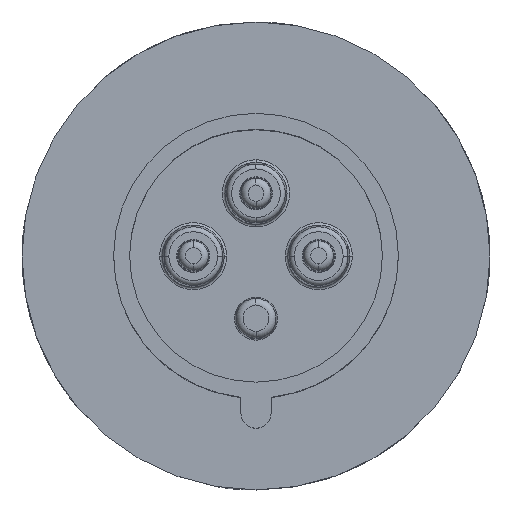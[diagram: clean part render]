
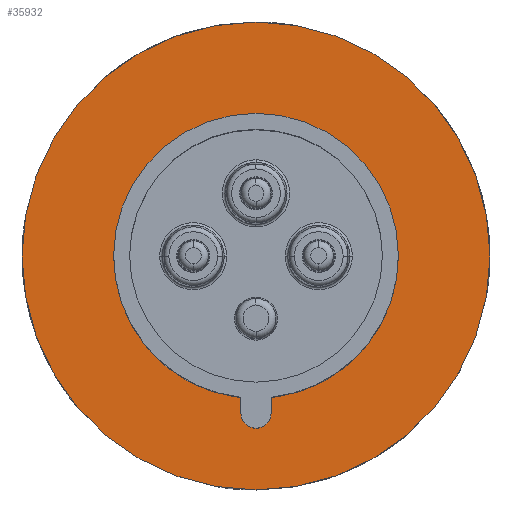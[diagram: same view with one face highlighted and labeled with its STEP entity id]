
A CAD part, top view. The second image highlights one B-rep face of the part: STEP entity #35932.
In plain terms, the highlighted planar face has unit normal (0, 0, 1).
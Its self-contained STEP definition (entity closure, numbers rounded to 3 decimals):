
#13970=CARTESIAN_POINT('',(0.,0.,20.2));
#13971=DIRECTION('',(0.,0.,-1.));
#13972=DIRECTION('',(0.,1.,0.));
#13973=AXIS2_PLACEMENT_3D('',#13970,#13971,#13972);
#14039=CARTESIAN_POINT('',(0.,0.,20.2));
#14040=DIRECTION('',(0.,0.,1.));
#14041=DIRECTION('',(0.,1.,0.));
#14042=AXIS2_PLACEMENT_3D('',#14039,#14040,#14041);
#15210=CARTESIAN_POINT('',(0.,0.,20.2));
#15211=DIRECTION('',(0.,0.,1.));
#15212=DIRECTION('',(-1.,0.,0.));
#15213=AXIS2_PLACEMENT_3D('',#15210,#15211,#15212);
#15234=CARTESIAN_POINT('',(0.,0.,20.2));
#15235=DIRECTION('',(0.,0.,1.));
#15236=DIRECTION('',(1.,0.,0.));
#15237=AXIS2_PLACEMENT_3D('',#15234,#15235,#15236);
#17853=CARTESIAN_POINT('',(0.,46.75,20.2));
#17855=VERTEX_POINT('',#17853);
#17857=CARTESIAN_POINT('',(0.,-46.75,20.2));
#17859=VERTEX_POINT('',#17857);
#18055=CARTESIAN_POINT('',(-28.45,0.,20.2));
#18056=CARTESIAN_POINT('',(28.45,0.,20.2));
#18057=VERTEX_POINT('',#18055);
#18058=VERTEX_POINT('',#18056);
#35917=CARTESIAN_POINT('',(0.,0.,20.2));
#35918=DIRECTION('',(0.,0.,1.));
#35919=DIRECTION('',(0.,-1.,0.));
#35920=AXIS2_PLACEMENT_3D('',#35917,#35918,#35919);
#35921=PLANE('542',#35920);
#35922=ORIENTED_EDGE('1455',*,*,#34702,.F.);
#35923=ORIENTED_EDGE('1456',*,*,#34612,.T.);
#35924=EDGE_LOOP('542',(#35922,#35923));
#35925=FACE_OUTER_BOUND('542',#35924,.F.);
#35927=ORIENTED_EDGE('1635',*,*,#35926,.T.);
#35929=ORIENTED_EDGE('1636',*,*,#35928,.T.);
#35930=EDGE_LOOP('542',(#35927,#35929));
#35931=FACE_BOUND('542',#35930,.F.);
#13974=CIRCLE('1456',#13973,46.75);
#14043=CIRCLE('1455',#14042,46.75);
#15214=CIRCLE('1635',#15213,28.45);
#15238=CIRCLE('1636',#15237,28.45);
#34612=EDGE_CURVE('1456',#17855,#17859,#13974,.T.);
#34702=EDGE_CURVE('1455',#17855,#17859,#14043,.T.);
#35926=EDGE_CURVE('1635',#18057,#18058,#15214,.T.);
#35928=EDGE_CURVE('1636',#18058,#18057,#15238,.T.);
#35932=ADVANCED_FACE('542',(#35925,#35931),#35921,.T.);
